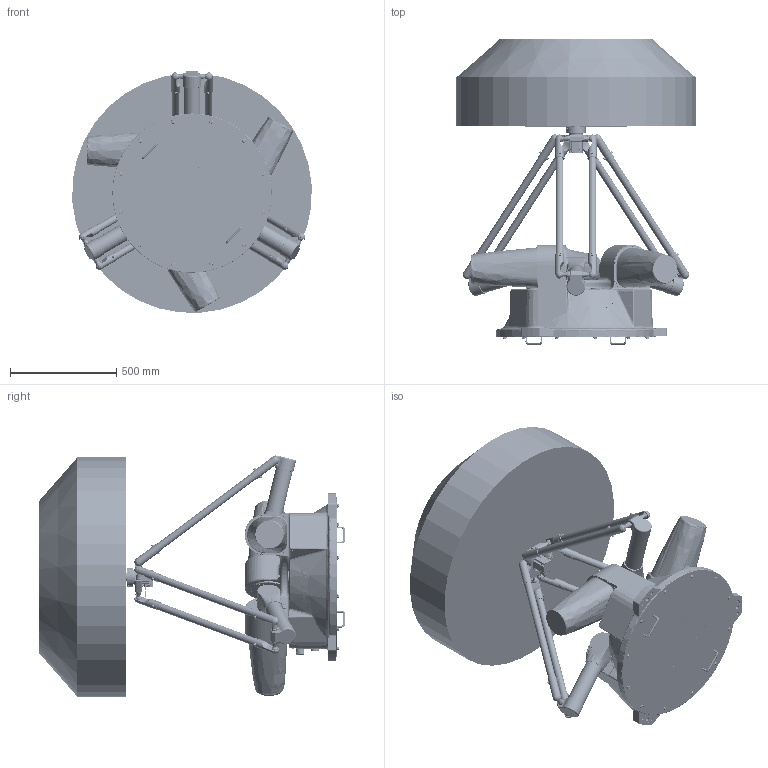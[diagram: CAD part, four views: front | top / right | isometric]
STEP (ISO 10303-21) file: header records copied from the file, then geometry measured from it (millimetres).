
FILE_DESCRIPTION (( 'STEP AP214' ), '1' );
FILE_NAME ('AP25X-1130-1544-T0-V3.0.0.STEP', '2025-01-22T02:49:37', ( '' ), ( '' ), 'SwSTEP 2.0', 'SolidWorks 2017', '' );
FILE_SCHEMA (( 'AUTOMOTIVE_DESIGN' ));
Length unit declared in the file: millimetre
Products named in the file (18): AP15X-2200-1544-T1-V1.0.1; AP25X-1130-1544-T10-V1.0.0; AP25X-1130-1544-T3-V1.0.0; AP25X-1130-1544-T2-V1.0.0; AP25X-1130-1544-T0-V3.0.0; AP25X-1130-1544-T11-V3.0.0
Assembly tree (12 placements, depth 2):
  AP15X-2200-1544-T1-V1.0.1
  AP25X-1130-1544-T3-V1.0.0
  AP25X-1130-1544-T3-V1.0.0
  AP25X-1130-1544-T0-V3.0.0
    AP15X-2200-1544-T1-V1.0.1
    AP25X-1130-1544-T2-V1.0.0  x3
    AP25X-1130-1544-T3-V1.0.0  x6
    AP25X-1130-1544-T11-V3.0.0
    AP25X-1130-1544-T10-V1.0.0
  AP25X-1130-1544-T2-V1.0.0
Bounding box: 1127.19 x 1439 x 1137.29 mm (x, y, z)
Volume: 353931180.6 mm3; surface area: 8385199.4 mm2
Topology: 36 solids, 359 shells, 6878 faces, 18799 edges, 12164 vertices
Faces by surface type: bspline 2157, plane 2054, cylinder 1604, cone 727, torus 237, sphere 99
Full cylindrical faces by diameter (mm): 0.9 x7, 1.5 x4, 1.6 x1, 2 x7, 2.05 x9, 2.1 x2, 2.3 x4, 2.5 x37, 3 x12, 3.3 x26, 3.4 x4, 3.5 x52, 4.2 x25, 4.268 x1, 4.383 x1, 4.5 x16, 4.8 x1, 5 x90, 5.3 x1, 5.5 x20, 6 x6, 6.647 x36, 6.8 x12, 7 x9, 7.3 x2, 8 x72, 9 x39, 9.3 x2, 9.51 x2, 10 x10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
Entity records: 392805 total; most frequent: CARTESIAN_POINT 197969, ORIENTED_EDGE 28026, DIRECTION 20923, EDGE_CURVE 14601, VERTEX_POINT 10120, AXIS2_PLACEMENT_3D 7872, EDGE_LOOP 7708, FACE_OUTER_BOUND 6641
